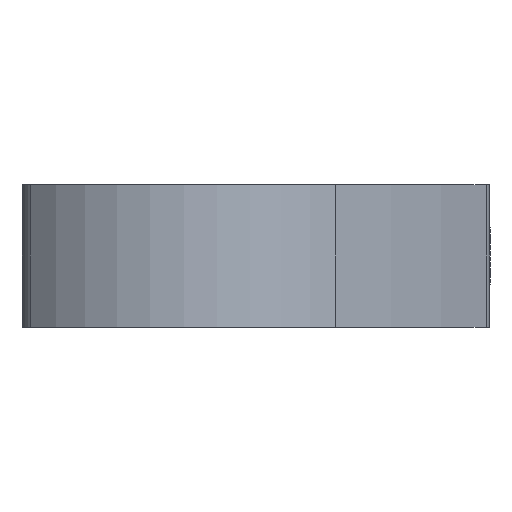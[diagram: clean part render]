
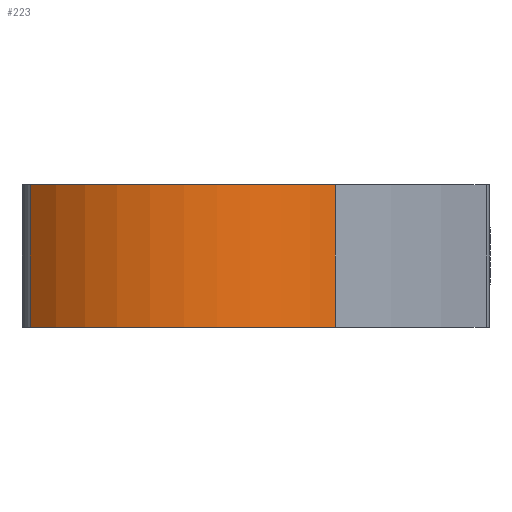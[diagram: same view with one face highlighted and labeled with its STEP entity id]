
A CAD part, front view. The second image highlights one B-rep face of the part: STEP entity #223.
In plain terms, the highlighted cylindrical face has radius 7.5 mm (diameter 15 mm), a partial arc.
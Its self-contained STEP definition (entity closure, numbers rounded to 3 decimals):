
#63=CYLINDRICAL_SURFACE('',#2556,7.5);
#223=ADVANCED_FACE('',(#320),#63,.T.);
#320=FACE_OUTER_BOUND('',#450,.F.);
#450=EDGE_LOOP('',(#673,#674,#675,#676));
#673=ORIENTED_EDGE('',*,*,#2032,.T.);
#674=ORIENTED_EDGE('',*,*,#2106,.F.);
#675=ORIENTED_EDGE('',*,*,#2030,.T.);
#676=ORIENTED_EDGE('',*,*,#2105,.T.);
#1775=LINE('',#3476,#1913);
#1776=LINE('',#3477,#1914);
#1913=VECTOR('',#2857,5.);
#1914=VECTOR('',#2858,5.);
#2030=EDGE_CURVE('',#2404,#2403,#2253,.T.);
#2032=EDGE_CURVE('',#2400,#2399,#2254,.T.);
#2105=EDGE_CURVE('',#2403,#2400,#1775,.T.);
#2106=EDGE_CURVE('',#2404,#2399,#1776,.T.);
#2253=CIRCLE('',#2507,7.5);
#2254=CIRCLE('',#2508,7.5);
#2399=VERTEX_POINT('',#3298);
#2400=VERTEX_POINT('',#3299);
#2403=VERTEX_POINT('',#3302);
#2404=VERTEX_POINT('',#3303);
#2507=AXIS2_PLACEMENT_3D('',#3375,#2746,#2747);
#2508=AXIS2_PLACEMENT_3D('',#3377,#2749,#2750);
#2556=AXIS2_PLACEMENT_3D('',#3555,#2919,#2920);
#2746=DIRECTION('',(0.,0.,-1.));
#2747=DIRECTION('',(0.719,-0.695,0.));
#2749=DIRECTION('',(0.,0.,1.));
#2750=DIRECTION('',(-0.703,-0.711,0.));
#2857=DIRECTION('',(0.,0.,1.));
#2858=DIRECTION('',(0.,0.,1.));
#2919=DIRECTION('',(0.,0.,1.));
#2920=DIRECTION('',(-0.703,-0.711,0.));
#3298=CARTESIAN_POINT('',(308.906,394.994,-180.626));
#3299=CARTESIAN_POINT('',(298.238,394.875,-180.626));
#3302=CARTESIAN_POINT('',(298.238,394.875,-185.626));
#3303=CARTESIAN_POINT('',(308.906,394.994,-185.626));
#3375=CARTESIAN_POINT('',(303.513,400.206,-185.626));
#3377=CARTESIAN_POINT('',(303.513,400.206,-180.626));
#3476=CARTESIAN_POINT('',(298.238,394.875,-185.626));
#3477=CARTESIAN_POINT('',(308.906,394.994,-185.626));
#3555=CARTESIAN_POINT('',(303.513,400.206,-185.626));
